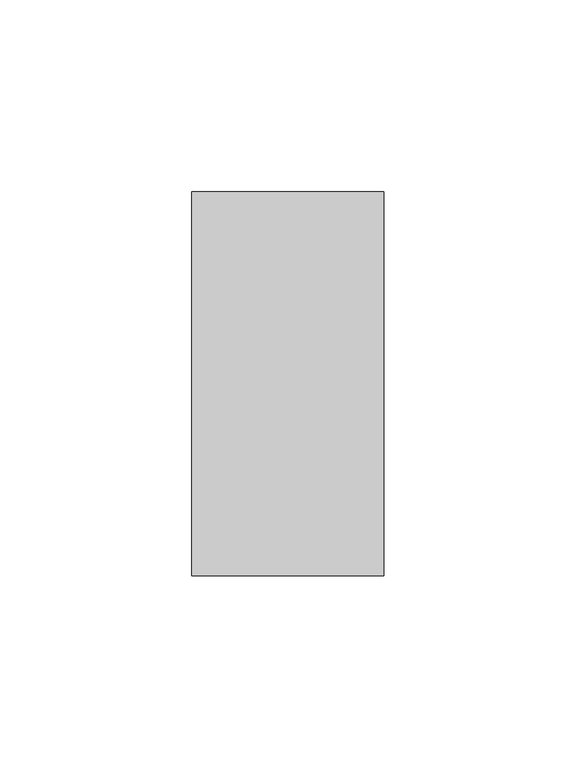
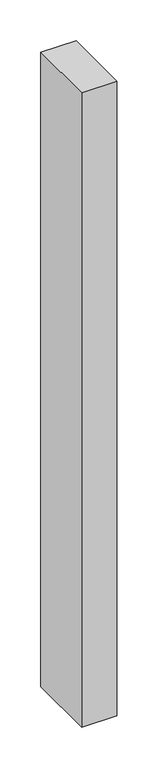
"""IFC4 building model written with IfcOpenShell, lengths in millimetres: member geometry, Прямоугольный импост : 50х100."""

from ifc_helpers import new_model, si_unit, frame, origin, place, context, project, spatial, polyline, outline, extrude, source, transform, mapped, element, save


def member_ded9e280(model_context):
    return source(origin(), model_context, "Body", "SweptSolid", [
        extrude(outline(polyline([(25.0, 50.0), (25.0, -50.0), (-25.0, -50.0), (-25.0, 50.0), (25.0, 50.0)])), frame((0.0, 0.0, -950.0), z_axis=(0.0, 0.0, 1.0), x_axis=(1.0, 0.0, 0.0)), (0.0, 0.0, 1.0), 950.0),
    ])


if __name__ == "__main__":
    model = new_model("IFC4")
    model_context = context("Model", 3, world=origin())
    ifc_project = project(units=[si_unit("LENGTHUNIT", "METRE", prefix="MILLI")], contexts=[model_context])
    site = spatial("IfcSite", under=ifc_project)
    building = spatial("IfcBuilding", under=site)
    placement = place(None, origin())
    member_shape = member_ded9e280(model_context)
    element("IfcMember", 1, ObjectType="Прямоугольный импост : 50х100", at=placement, inside=building, context=model_context, shape_type="MappedRepresentation", body=[
        mapped(member_shape, transform((0.0, 0.0, 0.0), x_axis=(1.0, 0.0, 0.0), y_axis=(0.0, 1.0, 0.0), z_axis=(0.0, 0.0, 1.0))),
    ])
    save(model, "model.ifc")
